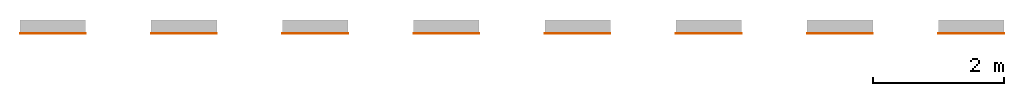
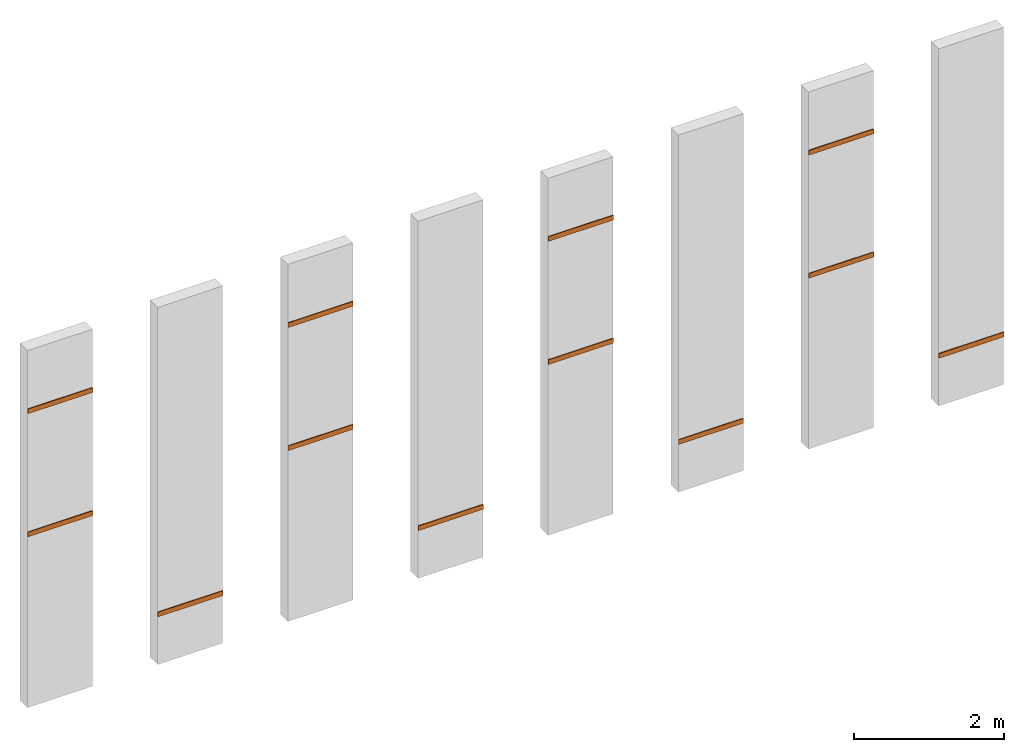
# One storey, part 2 of 2: 12 proxies.
"""IFC4 building model written with IfcOpenShell, lengths in millimetres."""

from ifc_helpers import new_model, entity, si_unit, converted_unit, derived_unit, direction, frame, origin, place, context, subcontext, project, spatial, line, arc, indexed_curve, outline, extrude, material, type_object, element, save


model = new_model("IFC4")

# Units and contexts
model_context = context("Model", 3, precision=0.01, world=origin(), true_north=direction((6.123031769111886e-17, 1.0)))
body_context = subcontext(model_context, "Body", "Model", "MODEL_VIEW")
ifc_project = project(units=[si_unit("LENGTHUNIT", "METRE", prefix="MILLI"), si_unit("AREAUNIT", "SQUARE_METRE"), si_unit("VOLUMEUNIT", "CUBIC_METRE"), converted_unit("PLANEANGLEUNIT", "DEGREE", entity("IfcPlaneAngleMeasure", 0.017453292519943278), si_unit("PLANEANGLEUNIT", "RADIAN"), dimensions=[0, 0, 0, 0, 0, 0, 0]), si_unit("MASSUNIT", "GRAM", prefix="KILO"), derived_unit("MASSDENSITYUNIT", [(si_unit("MASSUNIT", "GRAM", prefix="KILO"), 1), (si_unit("LENGTHUNIT", "METRE"), -3)]), derived_unit("IONCONCENTRATIONUNIT", [(si_unit("MASSUNIT", "GRAM", prefix="KILO"), 1), (si_unit("LENGTHUNIT", "METRE"), -3)]), derived_unit("MOMENTOFINERTIAUNIT", [(si_unit("LENGTHUNIT", "METRE"), 4)]), si_unit("TIMEUNIT", "SECOND"), si_unit("FREQUENCYUNIT", "HERTZ"), si_unit("THERMODYNAMICTEMPERATUREUNIT", "DEGREE_CELSIUS"), derived_unit("THERMALTRANSMITTANCEUNIT", [(si_unit("MASSUNIT", "GRAM", prefix="KILO"), 1), (si_unit("THERMODYNAMICTEMPERATUREUNIT", "KELVIN"), -1), (si_unit("TIMEUNIT", "SECOND"), -3)]), derived_unit("THERMALCONDUCTANCEUNIT", [(si_unit("MASSUNIT", "GRAM", prefix="KILO"), 1), (si_unit("THERMODYNAMICTEMPERATUREUNIT", "KELVIN"), -1), (si_unit("TIMEUNIT", "SECOND"), -3), (si_unit("LENGTHUNIT", "METRE"), 1)]), derived_unit("VOLUMETRICFLOWRATEUNIT", [(si_unit("LENGTHUNIT", "METRE", prefix="DECI"), 3), (si_unit("TIMEUNIT", "SECOND"), -1)]), derived_unit("MASSFLOWRATEUNIT", [(si_unit("MASSUNIT", "GRAM", prefix="KILO"), 1), (si_unit("TIMEUNIT", "SECOND"), -1)]), derived_unit("ROTATIONALFREQUENCYUNIT", [(si_unit("TIMEUNIT", "SECOND"), -1)]), si_unit("ELECTRICCURRENTUNIT", "AMPERE"), si_unit("ELECTRICVOLTAGEUNIT", "VOLT"), si_unit("POWERUNIT", "WATT"), si_unit("FORCEUNIT", "NEWTON", prefix="KILO"), si_unit("ILLUMINANCEUNIT", "LUX"), si_unit("LUMINOUSFLUXUNIT", "LUMEN"), si_unit("LUMINOUSINTENSITYUNIT", "CANDELA"), si_unit("ENERGYUNIT", "JOULE"), derived_unit("USERDEFINED", [(si_unit("MASSUNIT", "GRAM", prefix="KILO"), -1), (si_unit("LENGTHUNIT", "METRE"), -2), (si_unit("TIMEUNIT", "SECOND"), 3), (si_unit("LUMINOUSFLUXUNIT", "LUMEN"), 1)]), derived_unit("USERDEFINED", [(si_unit("MASSUNIT", "GRAM", prefix="KILO"), 1), (si_unit("TIMEUNIT", "SECOND"), -3), (si_unit("LENGTHUNIT", "METRE"), 3), (si_unit("ELECTRICCURRENTUNIT", "AMPERE"), -2)]), derived_unit("SOUNDPOWERUNIT", [(si_unit("MASSUNIT", "GRAM", prefix="KILO"), 1), (si_unit("TIMEUNIT", "SECOND"), -3), (si_unit("LENGTHUNIT", "METRE"), 2)]), derived_unit("SOUNDPRESSUREUNIT", [(si_unit("MASSUNIT", "GRAM", prefix="KILO"), 1), (si_unit("LENGTHUNIT", "METRE"), -1), (si_unit("TIMEUNIT", "SECOND"), -2)]), derived_unit("LINEARVELOCITYUNIT", [(si_unit("LENGTHUNIT", "METRE"), 1), (si_unit("TIMEUNIT", "SECOND"), -1)]), si_unit("PRESSUREUNIT", "PASCAL"), derived_unit("USERDEFINED", [(si_unit("MASSUNIT", "GRAM", prefix="KILO"), 1), (si_unit("LENGTHUNIT", "METRE"), -2), (si_unit("TIMEUNIT", "SECOND"), -2)]), derived_unit("LINEARFORCEUNIT", [(si_unit("MASSUNIT", "GRAM", prefix="KILO"), 1), (si_unit("TIMEUNIT", "SECOND"), -2)]), derived_unit("PLANARFORCEUNIT", [(si_unit("MASSUNIT", "GRAM", prefix="KILO"), 1), (si_unit("LENGTHUNIT", "METRE"), -1), (si_unit("TIMEUNIT", "SECOND"), -2)]), derived_unit("SPECIFICHEATCAPACITYUNIT", [(si_unit("THERMODYNAMICTEMPERATUREUNIT", "KELVIN"), -1), (si_unit("LENGTHUNIT", "METRE"), 2), (si_unit("TIMEUNIT", "SECOND"), -2)]), derived_unit("HEATFLUXDENSITYUNIT", [(si_unit("MASSUNIT", "GRAM", prefix="KILO"), 1), (si_unit("TIMEUNIT", "SECOND"), -3)]), derived_unit("HEATINGVALUEUNIT", [(si_unit("LENGTHUNIT", "METRE"), 2), (si_unit("TIMEUNIT", "SECOND"), -2)]), derived_unit("VAPORPERMEABILITYUNIT", [(si_unit("LENGTHUNIT", "METRE"), -1), (si_unit("TIMEUNIT", "SECOND"), 1)]), derived_unit("DYNAMICVISCOSITYUNIT", [(si_unit("MASSUNIT", "GRAM", prefix="KILO"), 1), (si_unit("TIMEUNIT", "SECOND"), -1), (si_unit("LENGTHUNIT", "METRE"), -1)]), derived_unit("THERMALEXPANSIONCOEFFICIENTUNIT", [(si_unit("THERMODYNAMICTEMPERATUREUNIT", "KELVIN"), -1)]), derived_unit("MODULUSOFELASTICITYUNIT", [(si_unit("MASSUNIT", "GRAM", prefix="KILO"), 1), (si_unit("LENGTHUNIT", "METRE"), -1), (si_unit("TIMEUNIT", "SECOND"), -2)]), derived_unit("ISOTHERMALMOISTURECAPACITYUNIT", [(si_unit("MASSUNIT", "GRAM", prefix="KILO"), -1), (si_unit("LENGTHUNIT", "METRE"), 3)]), derived_unit("MOISTUREDIFFUSIVITYUNIT", [(si_unit("TIMEUNIT", "SECOND"), -1), (si_unit("LENGTHUNIT", "METRE"), 2)]), derived_unit("AREADENSITYUNIT", [(si_unit("MASSUNIT", "GRAM", prefix="KILO"), 1), (si_unit("LENGTHUNIT", "METRE"), 2)]), derived_unit("MASSPERLENGTHUNIT", [(si_unit("MASSUNIT", "GRAM", prefix="KILO"), 1), (si_unit("LENGTHUNIT", "METRE"), -1)]), derived_unit("THERMALRESISTANCEUNIT", [(si_unit("MASSUNIT", "GRAM", prefix="KILO"), -1), (si_unit("TIMEUNIT", "SECOND"), 3), (si_unit("THERMODYNAMICTEMPERATUREUNIT", "KELVIN"), 1)]), derived_unit("ACCELERATIONUNIT", [(si_unit("LENGTHUNIT", "METRE"), 1), (si_unit("TIMEUNIT", "SECOND"), -2)]), derived_unit("ANGULARVELOCITYUNIT", [(si_unit("TIMEUNIT", "SECOND"), -1), (si_unit("PLANEANGLEUNIT", "RADIAN"), 1)]), derived_unit("LINEARSTIFFNESSUNIT", [(si_unit("MASSUNIT", "GRAM", prefix="KILO"), 1), (si_unit("TIMEUNIT", "SECOND"), -2)]), derived_unit("WARPINGCONSTANTUNIT", [(si_unit("LENGTHUNIT", "METRE"), 6)]), derived_unit("LINEARMOMENTUNIT", [(si_unit("MASSUNIT", "GRAM", prefix="KILO"), 1), (si_unit("LENGTHUNIT", "METRE"), 1), (si_unit("TIMEUNIT", "SECOND"), -2)]), derived_unit("TORQUEUNIT", [(si_unit("MASSUNIT", "GRAM", prefix="KILO"), 1), (si_unit("LENGTHUNIT", "METRE"), 2), (si_unit("TIMEUNIT", "SECOND"), -2)])], contexts=[model_context])

# Site, building, storey
site_placement = place(None, origin())
site = spatial("IfcSite", under=ifc_project, at=site_placement, Name="Default", CompositionType="ELEMENT")
building_placement = place(site_placement, origin())
building = spatial("IfcBuilding", under=site, at=building_placement, CompositionType="ELEMENT")
storey_placement = place(building_placement, origin())
storey = spatial("IfcBuildingStorey", under=building, at=storey_placement, Name="Level 1", CompositionType="ELEMENT", Elevation=0.0)

# Proxies
ifc_material_1 = material(Name="LOVE TILES-SENSE-SKIRTING-8X60-TOUCH RECTIFIED-BEIGE")
building_element_proxy_type_1 = type_object("IfcBuildingElementProxyType", Name="Wall Sweep:LOVE TILES-SENSE-SKIRTING-8X60-TOUCH RECTIFIED-BEIGE", PredefinedType="NOTDEFINED")
proxy_1_placement = place(storey_placement, origin())
element("IfcBuildingElementProxy", 1, at=proxy_1_placement, inside=storey, type_object=building_element_proxy_type_1, material=ifc_material_1, Name="Wall Sweep:LOVE TILES-SENSE-SKIRTING-8X60-TOUCH RECTIFIED-BEIGE", ObjectType="Wall Sweep:LOVE TILES-SENSE-SKIRTING-8X60-TOUCH RECTIFIED-BEIGE", PredefinedType="NOTDEFINED", context=body_context, shape_type="SweptSolid", body=[
    extrude(outline(indexed_curve([(-37.75000000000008, -4.5000000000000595), (42.25000000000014, -4.5000000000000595), (39.61396103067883, 1.863961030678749), (33.25000000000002, 4.5000000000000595), (-37.75000000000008, 4.5000000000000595)], segments=[line(1, 2), arc(2, 3, 4), line(4, 5, 1)], self_intersect=False)), frame((2507.409555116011, 3494.801045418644, 4817.75), z_axis=(1.0, 0.0, 0.0), x_axis=(0.0, 0.0, 1.0)), (0.0, 0.0, 1.0), 1000.0000000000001),
])
ifc_material_2 = material(Name="LOVE TILES-SENSE-SKIRTING-8X80-TOUCH RECTIFIED-BEIGE")
building_element_proxy_type_2 = type_object("IfcBuildingElementProxyType", Name="Wall Sweep:LOVE TILES-SENSE-SKIRTING-8X80-TOUCH RECTIFIED-BEIGE", PredefinedType="NOTDEFINED")
proxy_2_placement = place(storey_placement, origin())
element("IfcBuildingElementProxy", 2, at=proxy_2_placement, inside=storey, type_object=building_element_proxy_type_2, material=ifc_material_2, Name="Wall Sweep:LOVE TILES-SENSE-SKIRTING-8X80-TOUCH RECTIFIED-BEIGE", ObjectType="Wall Sweep:LOVE TILES-SENSE-SKIRTING-8X80-TOUCH RECTIFIED-BEIGE", PredefinedType="NOTDEFINED", context=body_context, shape_type="SweptSolid", body=[
    extrude(outline(indexed_curve([(-37.75000000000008, -4.5000000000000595), (42.25000000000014, -4.5000000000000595), (39.61396103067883, 1.863961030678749), (33.25000000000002, 4.5000000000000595), (-37.75000000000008, 4.5000000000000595)], segments=[line(1, 2), arc(2, 3, 4), line(4, 5, 1)], self_intersect=False)), frame((2507.409555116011, 3494.801045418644, 2817.749999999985), z_axis=(1.0, 0.0, 0.0), x_axis=(0.0, 0.0, 1.0)), (0.0, 0.0, 1.0), 1000.0000000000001),
])
ifc_material_3 = material(Name="LOVE TILES-SENSE-SKIRTING-8X100-IN&OUT RECTIFIED-BEIGE")
building_element_proxy_type_3 = type_object("IfcBuildingElementProxyType", Name="Wall Sweep:LOVE TILES-SENSE-SKIRTING-8X100-IN&OUT RECTIFIED-BEIGE", PredefinedType="NOTDEFINED")
proxy_3_placement = place(storey_placement, origin())
element("IfcBuildingElementProxy", 3, at=proxy_3_placement, inside=storey, type_object=building_element_proxy_type_3, material=ifc_material_3, Name="Wall Sweep:LOVE TILES-SENSE-SKIRTING-8X100-IN&OUT RECTIFIED-BEIGE", ObjectType="Wall Sweep:LOVE TILES-SENSE-SKIRTING-8X100-IN&OUT RECTIFIED-BEIGE", PredefinedType="NOTDEFINED", context=body_context, shape_type="SweptSolid", body=[
    extrude(outline(indexed_curve([(-37.74999999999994, -4.5000000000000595), (42.25000000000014, -4.5000000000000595), (39.6139610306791, 1.863961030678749), (33.250000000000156, 4.5000000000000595), (-37.74999999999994, 4.5000000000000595)], segments=[line(1, 2), arc(2, 3, 4), line(4, 5, 1)], self_intersect=False)), frame((4507.409555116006, 3494.801045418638, 817.7499999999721), z_axis=(1.0, 0.0, 0.0), x_axis=(0.0, 0.0, 1.0)), (0.0, 0.0, 1.0), 999.9999999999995),
])
ifc_material_4 = material(Name="LOVE TILES-SENSE-SKIRTING-8X60-TOUCH RECTIFIED-GREY")
building_element_proxy_type_4 = type_object("IfcBuildingElementProxyType", Name="Wall Sweep:LOVE TILES-SENSE-SKIRTING-8X60-TOUCH RECTIFIED-GREY", PredefinedType="NOTDEFINED")
proxy_4_placement = place(storey_placement, origin())
element("IfcBuildingElementProxy", 4, at=proxy_4_placement, inside=storey, type_object=building_element_proxy_type_4, material=ifc_material_4, Name="Wall Sweep:LOVE TILES-SENSE-SKIRTING-8X60-TOUCH RECTIFIED-GREY", ObjectType="Wall Sweep:LOVE TILES-SENSE-SKIRTING-8X60-TOUCH RECTIFIED-GREY", PredefinedType="NOTDEFINED", context=body_context, shape_type="SweptSolid", body=[
    extrude(outline(indexed_curve([(-37.75000000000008, -4.5000000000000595), (42.25000000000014, -4.5000000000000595), (39.61396103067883, 1.863961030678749), (33.25000000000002, 4.5000000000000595), (-37.75000000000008, 4.5000000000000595)], segments=[line(1, 2), arc(2, 3, 4), line(4, 5, 1)], self_intersect=False)), frame((6507.409555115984, 3494.8010454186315, 4817.75), z_axis=(1.0, 0.0, 0.0), x_axis=(0.0, 0.0, 1.0)), (0.0, 0.0, 1.0), 1000.0000000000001),
])
ifc_material_5 = material(Name="LOVE TILES-SENSE-SKIRTING-8X60-TOUCH RECTIFIED-LIGHT GREY")
building_element_proxy_type_5 = type_object("IfcBuildingElementProxyType", Name="Wall Sweep:LOVE TILES-SENSE-SKIRTING-8X60-TOUCH RECTIFIED-LIGHT GREY", PredefinedType="NOTDEFINED")
proxy_5_placement = place(storey_placement, origin())
element("IfcBuildingElementProxy", 5, at=proxy_5_placement, inside=storey, type_object=building_element_proxy_type_5, material=ifc_material_5, Name="Wall Sweep:LOVE TILES-SENSE-SKIRTING-8X60-TOUCH RECTIFIED-LIGHT GREY", ObjectType="Wall Sweep:LOVE TILES-SENSE-SKIRTING-8X60-TOUCH RECTIFIED-LIGHT GREY", PredefinedType="NOTDEFINED", context=body_context, shape_type="SweptSolid", body=[
    extrude(outline(indexed_curve([(-37.75000000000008, -4.5000000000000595), (42.25000000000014, -4.5000000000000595), (39.61396103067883, 1.863961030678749), (33.25000000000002, 4.5000000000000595), (-37.75000000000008, 4.5000000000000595)], segments=[line(1, 2), arc(2, 3, 4), line(4, 5, 1)], self_intersect=False)), frame((10507.409555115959, 3494.8010454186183, 4817.75), z_axis=(1.0, 0.0, 0.0), x_axis=(0.0, 0.0, 1.0)), (0.0, 0.0, 1.0), 1000.0000000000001),
])
ifc_material_6 = material(Name="LOVE TILES-SENSE-SKIRTING-8X60-TOUCH RECTIFIED-WHITE")
building_element_proxy_type_6 = type_object("IfcBuildingElementProxyType", Name="Wall Sweep:LOVE TILES-SENSE-SKIRTING-8X60-TOUCH RECTIFIED-WHITE", PredefinedType="NOTDEFINED")
proxy_6_placement = place(storey_placement, origin())
element("IfcBuildingElementProxy", 6, at=proxy_6_placement, inside=storey, type_object=building_element_proxy_type_6, material=ifc_material_6, Name="Wall Sweep:LOVE TILES-SENSE-SKIRTING-8X60-TOUCH RECTIFIED-WHITE", ObjectType="Wall Sweep:LOVE TILES-SENSE-SKIRTING-8X60-TOUCH RECTIFIED-WHITE", PredefinedType="NOTDEFINED", context=body_context, shape_type="SweptSolid", body=[
    extrude(outline(indexed_curve([(-37.75000000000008, -4.5000000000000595), (42.25000000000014, -4.5000000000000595), (39.61396103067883, 1.863961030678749), (33.25000000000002, 4.5000000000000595), (-37.75000000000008, 4.5000000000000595)], segments=[line(1, 2), arc(2, 3, 4), line(4, 5, 1)], self_intersect=False)), frame((14507.409555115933, 3494.8010454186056, 4817.75), z_axis=(1.0, 0.0, 0.0), x_axis=(0.0, 0.0, 1.0)), (0.0, 0.0, 1.0), 1000.0000000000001),
])
ifc_material_7 = material(Name="LOVE TILES-SENSE-SKIRTING-8X80-TOUCH RECTIFIED-GREY")
building_element_proxy_type_7 = type_object("IfcBuildingElementProxyType", Name="Wall Sweep:LOVE TILES-SENSE-SKIRTING-8X80-TOUCH RECTIFIED-GREY", PredefinedType="NOTDEFINED")
proxy_7_placement = place(storey_placement, origin())
element("IfcBuildingElementProxy", 7, at=proxy_7_placement, inside=storey, type_object=building_element_proxy_type_7, material=ifc_material_7, Name="Wall Sweep:LOVE TILES-SENSE-SKIRTING-8X80-TOUCH RECTIFIED-GREY", ObjectType="Wall Sweep:LOVE TILES-SENSE-SKIRTING-8X80-TOUCH RECTIFIED-GREY", PredefinedType="NOTDEFINED", context=body_context, shape_type="SweptSolid", body=[
    extrude(outline(indexed_curve([(-37.75000000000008, -4.5000000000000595), (42.25000000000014, -4.5000000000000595), (39.61396103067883, 1.863961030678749), (33.25000000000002, 4.5000000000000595), (-37.75000000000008, 4.5000000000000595)], segments=[line(1, 2), arc(2, 3, 4), line(4, 5, 1)], self_intersect=False)), frame((6507.409555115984, 3494.8010454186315, 2817.749999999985), z_axis=(1.0, 0.0, 0.0), x_axis=(0.0, 0.0, 1.0)), (0.0, 0.0, 1.0), 1000.0000000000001),
])
ifc_material_8 = material(Name="LOVE TILES-SENSE-SKIRTING-8X80-TOUCH RECTIFIED-LIGHT GREY")
building_element_proxy_type_8 = type_object("IfcBuildingElementProxyType", Name="Wall Sweep:LOVE TILES-SENSE-SKIRTING-8X80-TOUCH RECTIFIED-LIGHT GREY", PredefinedType="NOTDEFINED")
proxy_8_placement = place(storey_placement, origin())
element("IfcBuildingElementProxy", 8, at=proxy_8_placement, inside=storey, type_object=building_element_proxy_type_8, material=ifc_material_8, Name="Wall Sweep:LOVE TILES-SENSE-SKIRTING-8X80-TOUCH RECTIFIED-LIGHT GREY", ObjectType="Wall Sweep:LOVE TILES-SENSE-SKIRTING-8X80-TOUCH RECTIFIED-LIGHT GREY", PredefinedType="NOTDEFINED", context=body_context, shape_type="SweptSolid", body=[
    extrude(outline(indexed_curve([(-37.75000000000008, -4.5000000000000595), (42.25000000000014, -4.5000000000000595), (39.61396103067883, 1.863961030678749), (33.25000000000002, 4.5000000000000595), (-37.75000000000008, 4.5000000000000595)], segments=[line(1, 2), arc(2, 3, 4), line(4, 5, 1)], self_intersect=False)), frame((10507.409555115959, 3494.8010454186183, 2817.749999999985), z_axis=(1.0, 0.0, 0.0), x_axis=(0.0, 0.0, 1.0)), (0.0, 0.0, 1.0), 1000.0000000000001),
])
ifc_material_9 = material(Name="LOVE TILES-SENSE-SKIRTING-8X80-TOUCH RECTIFIED-WHITE")
building_element_proxy_type_9 = type_object("IfcBuildingElementProxyType", Name="Wall Sweep:LOVE TILES-SENSE-SKIRTING-8X80-TOUCH RECTIFIED-WHITE", PredefinedType="NOTDEFINED")
proxy_9_placement = place(storey_placement, origin())
element("IfcBuildingElementProxy", 9, at=proxy_9_placement, inside=storey, type_object=building_element_proxy_type_9, material=ifc_material_9, Name="Wall Sweep:LOVE TILES-SENSE-SKIRTING-8X80-TOUCH RECTIFIED-WHITE", ObjectType="Wall Sweep:LOVE TILES-SENSE-SKIRTING-8X80-TOUCH RECTIFIED-WHITE", PredefinedType="NOTDEFINED", context=body_context, shape_type="SweptSolid", body=[
    extrude(outline(indexed_curve([(-37.75000000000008, -4.5000000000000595), (42.25000000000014, -4.5000000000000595), (39.61396103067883, 1.863961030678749), (33.25000000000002, 4.5000000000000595), (-37.75000000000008, 4.5000000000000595)], segments=[line(1, 2), arc(2, 3, 4), line(4, 5, 1)], self_intersect=False)), frame((14507.409555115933, 3494.8010454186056, 2817.749999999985), z_axis=(1.0, 0.0, 0.0), x_axis=(0.0, 0.0, 1.0)), (0.0, 0.0, 1.0), 1000.0000000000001),
])
ifc_material_10 = material(Name="LOVE TILES-SENSE-SKIRTING-8X100-IN&OUT RECTIFIED-GREY")
building_element_proxy_type_10 = type_object("IfcBuildingElementProxyType", Name="Wall Sweep:LOVE TILES-SENSE-SKIRTING-8X100-IN&OUT RECTIFIED-GREY", PredefinedType="NOTDEFINED")
proxy_10_placement = place(storey_placement, origin())
element("IfcBuildingElementProxy", 10, at=proxy_10_placement, inside=storey, type_object=building_element_proxy_type_10, material=ifc_material_10, Name="Wall Sweep:LOVE TILES-SENSE-SKIRTING-8X100-IN&OUT RECTIFIED-GREY", ObjectType="Wall Sweep:LOVE TILES-SENSE-SKIRTING-8X100-IN&OUT RECTIFIED-GREY", PredefinedType="NOTDEFINED", context=body_context, shape_type="SweptSolid", body=[
    extrude(outline(indexed_curve([(-37.74999999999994, -4.5000000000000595), (42.25000000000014, -4.5000000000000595), (39.6139610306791, 1.863961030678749), (33.250000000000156, 4.5000000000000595), (-37.74999999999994, 4.5000000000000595)], segments=[line(1, 2), arc(2, 3, 4), line(4, 5, 1)], self_intersect=False)), frame((8507.40955511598, 3494.8010454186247, 817.7499999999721), z_axis=(1.0, 0.0, 0.0), x_axis=(0.0, 0.0, 1.0)), (0.0, 0.0, 1.0), 1000.0000000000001),
])
ifc_material_11 = material(Name="LOVE TILES-SENSE-SKIRTING-8X100-IN&OUT RECTIFIED-LIGHT GREY")
building_element_proxy_type_11 = type_object("IfcBuildingElementProxyType", Name="Wall Sweep:LOVE TILES-SENSE-SKIRTING-8X100-IN&OUT RECTIFIED-LIGHT GREY", PredefinedType="NOTDEFINED")
proxy_11_placement = place(storey_placement, origin())
element("IfcBuildingElementProxy", 11, at=proxy_11_placement, inside=storey, type_object=building_element_proxy_type_11, material=ifc_material_11, Name="Wall Sweep:LOVE TILES-SENSE-SKIRTING-8X100-IN&OUT RECTIFIED-LIGHT GREY", ObjectType="Wall Sweep:LOVE TILES-SENSE-SKIRTING-8X100-IN&OUT RECTIFIED-LIGHT GREY", PredefinedType="NOTDEFINED", context=body_context, shape_type="SweptSolid", body=[
    extrude(outline(indexed_curve([(-37.74999999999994, -4.5000000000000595), (42.25000000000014, -4.5000000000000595), (39.6139610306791, 1.863961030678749), (33.250000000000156, 4.5000000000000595), (-37.74999999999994, 4.5000000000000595)], segments=[line(1, 2), arc(2, 3, 4), line(4, 5, 1)], self_intersect=False)), frame((12507.409555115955, 3494.801045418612, 817.7499999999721), z_axis=(1.0, 0.0, 0.0), x_axis=(0.0, 0.0, 1.0)), (0.0, 0.0, 1.0), 1000.0000000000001),
])
ifc_material_12 = material(Name="LOVE TILES-SENSE-SKIRTING-8X100-IN&OUT RECTIFIED-WHITE")
building_element_proxy_type_12 = type_object("IfcBuildingElementProxyType", Name="Wall Sweep:LOVE TILES-SENSE-SKIRTING-8X100-IN&OUT RECTIFIED-WHITE", PredefinedType="NOTDEFINED")
proxy_12_placement = place(storey_placement, origin())
element("IfcBuildingElementProxy", 12, at=proxy_12_placement, inside=storey, type_object=building_element_proxy_type_12, material=ifc_material_12, Name="Wall Sweep:LOVE TILES-SENSE-SKIRTING-8X100-IN&OUT RECTIFIED-WHITE", ObjectType="Wall Sweep:LOVE TILES-SENSE-SKIRTING-8X100-IN&OUT RECTIFIED-WHITE", PredefinedType="NOTDEFINED", context=body_context, shape_type="SweptSolid", body=[
    extrude(outline(indexed_curve([(-37.74999999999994, -4.5000000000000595), (42.25000000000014, -4.5000000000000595), (39.6139610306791, 1.863961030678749), (33.250000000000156, 4.5000000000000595), (-37.74999999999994, 4.5000000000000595)], segments=[line(1, 2), arc(2, 3, 4), line(4, 5, 1)], self_intersect=False)), frame((16507.40955511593, 3494.8010454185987, 817.7499999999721), z_axis=(1.0, 0.0, 0.0), x_axis=(0.0, 0.0, 1.0)), (0.0, 0.0, 1.0), 1000.0000000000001),
])

save(model, "model.ifc")
